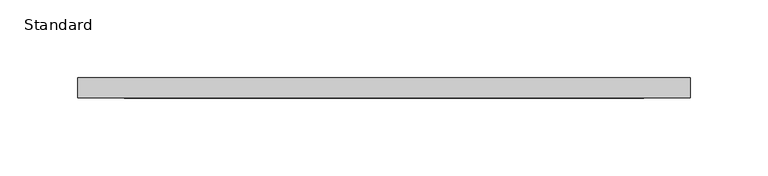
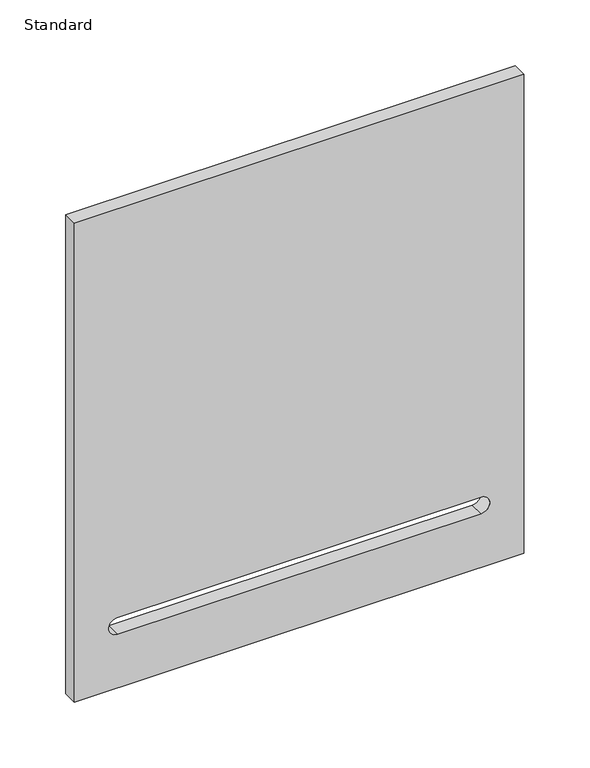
"""IFC4 building model written with IfcOpenShell, lengths in millimetres: furniture geometry, X_Locker-Duracube-Door : Standard."""

from ifc_helpers import new_model, si_unit, point, frame, frame_2d, origin, place, context, project, spatial, polyline, circle_curve, trimmed, segment, composite_curve, outline, extrude, source, transform, mapped, element, save


def standard_e0f8491c(model_context):
    return source(origin(), model_context, "Body", "SweptSolid", [
        extrude(outline(polyline([(447.0, 241.7003264), (447.0, -152.2996736), (3.0, -152.2996736), (3.0, 241.7003264), (447.0, 241.7003264)]), holes=[composite_curve([segment(trimmed(circle_curve(frame_2d((60.5, 204.2003264)), 7.5), [point((68.0, 204.2003264))], [point((53.0, 204.2003264))], True, "CARTESIAN"), True, "CONTINUOUS"), segment(polyline([(53.0, 204.2003264), (53.0, -114.7996736)]), True, "CONTINUOUS"), segment(trimmed(circle_curve(frame_2d((60.5, -114.7996736)), 7.5), [point((53.0, -114.7996736))], [point((68.0, -114.7996736))], True, "CARTESIAN"), True, "CONTINUOUS"), segment(polyline([(68.0, -114.7996736), (68.0, 204.2003264)]), True, "CONTINUOUS")], self_intersect=False)]), frame((0.0, -13.0, 0.0), z_axis=(0.0, 1.0, 0.0), x_axis=(0.0, 0.0, 1.0)), (0.0, 0.0, 1.0), 13.0),
    ])


if __name__ == "__main__":
    model = new_model("IFC4")
    model_context = context("Model", 3, world=origin())
    ifc_project = project(units=[si_unit("LENGTHUNIT", "METRE", prefix="MILLI")], contexts=[model_context])
    site = spatial("IfcSite", under=ifc_project)
    building = spatial("IfcBuilding", under=site)
    placement = place(None, origin())
    standard_shape = standard_e0f8491c(model_context)
    element("IfcFurniture", 1, ObjectType="X_Locker-Duracube-Door : Standard", at=placement, inside=building, context=model_context, shape_type="MappedRepresentation", body=[
        mapped(standard_shape, transform((0.0, 0.0, 0.0), x_axis=(1.0, 0.0, 0.0), y_axis=(0.0, 1.0, 0.0), z_axis=(0.0, 0.0, 1.0))),
    ])
    save(model, "model.ifc")
